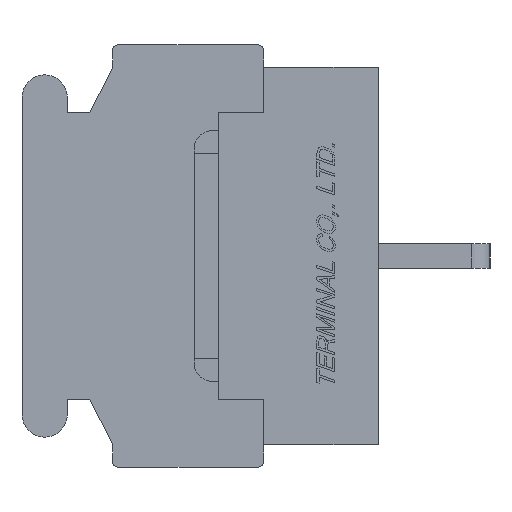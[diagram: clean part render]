
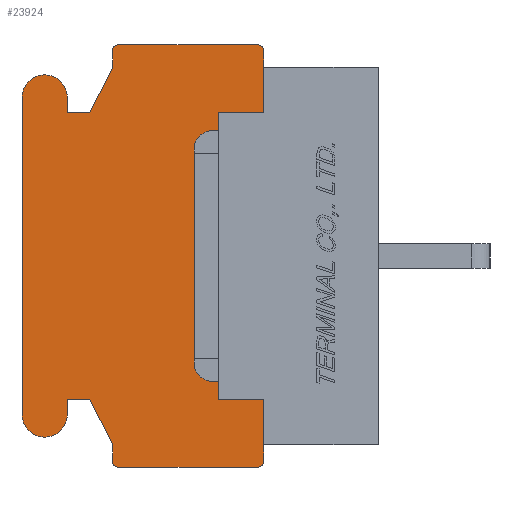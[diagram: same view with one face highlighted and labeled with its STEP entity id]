
A CAD part, left-side view. The second image highlights one B-rep face of the part: STEP entity #23924.
In plain terms, the highlighted planar face has unit normal (-1, 0, 0).
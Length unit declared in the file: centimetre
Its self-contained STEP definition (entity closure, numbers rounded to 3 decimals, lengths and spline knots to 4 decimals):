
#970=PLANE('',#38953);
#2183=VECTOR('',#25894,1.);
#2578=VECTOR('',#26422,1.);
#2581=VECTOR('',#26426,1.);
#2583=VECTOR('',#26429,1.);
#2584=VECTOR('',#26431,1.);
#2585=VECTOR('',#26433,1.);
#2586=VECTOR('',#26436,1.);
#2587=VECTOR('',#26439,1.);
#2588=VECTOR('',#26440,1.);
#2589=VECTOR('',#26441,1.);
#2590=VECTOR('',#26442,1.);
#2591=VECTOR('',#26445,1.);
#2592=VECTOR('',#26448,1.);
#2593=VECTOR('',#26449,1.);
#2594=VECTOR('',#26450,1.);
#2595=VECTOR('',#26451,1.);
#2596=VECTOR('',#26454,1.);
#2597=VECTOR('',#26457,1.);
#4827=LINE('',#32092,#2183);
#5222=LINE('',#33577,#2578);
#5225=LINE('',#33583,#2581);
#5227=LINE('',#33587,#2583);
#5228=LINE('',#33589,#2584);
#5229=LINE('',#33591,#2585);
#5230=LINE('',#33595,#2586);
#5231=LINE('',#33599,#2587);
#5232=LINE('',#33601,#2588);
#5233=LINE('',#33603,#2589);
#5234=LINE('',#33605,#2590);
#5235=LINE('',#33609,#2591);
#5236=LINE('',#33613,#2592);
#5237=LINE('',#33615,#2593);
#5238=LINE('',#33617,#2594);
#5239=LINE('',#33619,#2595);
#5240=LINE('',#33623,#2596);
#5241=LINE('',#33627,#2597);
#7410=VERTEX_POINT('',#32091);
#7411=VERTEX_POINT('',#32093);
#7745=VERTEX_POINT('',#33576);
#7746=VERTEX_POINT('',#33578);
#7747=VERTEX_POINT('',#33582);
#7748=VERTEX_POINT('',#33584);
#7749=VERTEX_POINT('',#33592);
#7750=VERTEX_POINT('',#33594);
#7751=VERTEX_POINT('',#33596);
#7752=VERTEX_POINT('',#33598);
#7753=VERTEX_POINT('',#33600);
#7754=VERTEX_POINT('',#33602);
#7755=VERTEX_POINT('',#33604);
#7756=VERTEX_POINT('',#33606);
#7757=VERTEX_POINT('',#33608);
#7758=VERTEX_POINT('',#33610);
#7759=VERTEX_POINT('',#33612);
#7760=VERTEX_POINT('',#33614);
#7761=VERTEX_POINT('',#33616);
#7762=VERTEX_POINT('',#33618);
#7763=VERTEX_POINT('',#33620);
#7764=VERTEX_POINT('',#33622);
#7765=VERTEX_POINT('',#33624);
#7766=VERTEX_POINT('',#33626);
#9313=CIRCLE('',#38954,0.02);
#9314=CIRCLE('',#38955,0.02);
#9315=CIRCLE('',#38956,0.075);
#9316=CIRCLE('',#38957,0.075);
#9317=CIRCLE('',#38958,0.02);
#9318=CIRCLE('',#38959,0.02);
#10528=EDGE_CURVE('',#7411,#7410,#4827,.T.);
#11029=EDGE_CURVE('',#7746,#7745,#5222,.T.);
#11032=EDGE_CURVE('',#7748,#7747,#5225,.T.);
#11034=EDGE_CURVE('',#7747,#7411,#5227,.T.);
#11035=EDGE_CURVE('',#7410,#7746,#5228,.T.);
#11036=EDGE_CURVE('',#7749,#7745,#5229,.T.);
#11037=EDGE_CURVE('',#7750,#7749,#9313,.T.);
#11038=EDGE_CURVE('',#7751,#7750,#5230,.T.);
#11039=EDGE_CURVE('',#7752,#7751,#9314,.T.);
#11040=EDGE_CURVE('',#7753,#7752,#5231,.T.);
#11041=EDGE_CURVE('',#7754,#7753,#5232,.T.);
#11042=EDGE_CURVE('',#7755,#7754,#5233,.T.);
#11043=EDGE_CURVE('',#7756,#7755,#5234,.T.);
#11044=EDGE_CURVE('',#7757,#7756,#9315,.T.);
#11045=EDGE_CURVE('',#7758,#7757,#5235,.T.);
#11046=EDGE_CURVE('',#7759,#7758,#9316,.T.);
#11047=EDGE_CURVE('',#7760,#7759,#5236,.T.);
#11048=EDGE_CURVE('',#7761,#7760,#5237,.T.);
#11049=EDGE_CURVE('',#7762,#7761,#5238,.T.);
#11050=EDGE_CURVE('',#7763,#7762,#5239,.T.);
#11051=EDGE_CURVE('',#7764,#7763,#9317,.T.);
#11052=EDGE_CURVE('',#7765,#7764,#5240,.T.);
#11053=EDGE_CURVE('',#7766,#7765,#9318,.T.);
#11054=EDGE_CURVE('',#7748,#7766,#5241,.T.);
#15909=ORIENTED_EDGE('',*,*,#11032,.T.);
#15910=ORIENTED_EDGE('',*,*,#11034,.T.);
#15911=ORIENTED_EDGE('',*,*,#10528,.T.);
#15912=ORIENTED_EDGE('',*,*,#11035,.T.);
#15913=ORIENTED_EDGE('',*,*,#11029,.T.);
#15914=ORIENTED_EDGE('',*,*,#11036,.F.);
#15915=ORIENTED_EDGE('',*,*,#11037,.F.);
#15916=ORIENTED_EDGE('',*,*,#11038,.F.);
#15917=ORIENTED_EDGE('',*,*,#11039,.F.);
#15918=ORIENTED_EDGE('',*,*,#11040,.F.);
#15919=ORIENTED_EDGE('',*,*,#11041,.F.);
#15920=ORIENTED_EDGE('',*,*,#11042,.F.);
#15921=ORIENTED_EDGE('',*,*,#11043,.F.);
#15922=ORIENTED_EDGE('',*,*,#11044,.F.);
#15923=ORIENTED_EDGE('',*,*,#11045,.F.);
#15924=ORIENTED_EDGE('',*,*,#11046,.F.);
#15925=ORIENTED_EDGE('',*,*,#11047,.F.);
#15926=ORIENTED_EDGE('',*,*,#11048,.F.);
#15927=ORIENTED_EDGE('',*,*,#11049,.F.);
#15928=ORIENTED_EDGE('',*,*,#11050,.F.);
#15929=ORIENTED_EDGE('',*,*,#11051,.F.);
#15930=ORIENTED_EDGE('',*,*,#11052,.F.);
#15931=ORIENTED_EDGE('',*,*,#11053,.F.);
#15932=ORIENTED_EDGE('',*,*,#11054,.F.);
#21076=EDGE_LOOP('',(#15909,#15910,#15911,#15912,#15913,#15914,#15915,#15916,
#15917,#15918,#15919,#15920,#15921,#15922,#15923,#15924,#15925,#15926,#15927,
#15928,#15929,#15930,#15931,#15932));
#22526=FACE_BOUND('',#21076,.T.);
#23924=ADVANCED_FACE('',(#22526),#970,.F.);
#25894=DIRECTION('',(0.,0.,1.));
#26422=DIRECTION('',(0.,0.,1.));
#26426=DIRECTION('',(0.,0.,1.));
#26429=DIRECTION('',(0.,1.,0.));
#26431=DIRECTION('',(0.,-1.,0.));
#26432=DIRECTION('',(1.,0.,0.));
#26433=DIRECTION('',(0.,0.,-1.));
#26434=DIRECTION('',(1.,0.,0.));
#26435=DIRECTION('',(0.,0.,-0.02));
#26436=DIRECTION('',(0.,-1.,0.));
#26437=DIRECTION('',(1.,0.,0.));
#26438=DIRECTION('',(0.,0.,-0.02));
#26439=DIRECTION('',(0.,0.,1.));
#26440=DIRECTION('',(0.,-0.447,0.894));
#26441=DIRECTION('',(0.,-1.,0.));
#26442=DIRECTION('',(0.,0.,-1.));
#26443=DIRECTION('',(1.,0.,0.));
#26444=DIRECTION('',(0.,0.,-0.075));
#26445=DIRECTION('',(0.,0.,1.));
#26446=DIRECTION('',(1.,0.,0.));
#26447=DIRECTION('',(0.,0.,-0.075));
#26448=DIRECTION('',(0.,0.,-1.));
#26449=DIRECTION('',(0.,1.,0.));
#26450=DIRECTION('',(0.,0.447,0.894));
#26451=DIRECTION('',(0.,0.,1.));
#26452=DIRECTION('',(1.,0.,0.));
#26453=DIRECTION('',(0.,0.,-0.02));
#26454=DIRECTION('',(0.,1.,0.));
#26455=DIRECTION('',(1.,0.,0.));
#26456=DIRECTION('',(0.,0.,-0.02));
#26457=DIRECTION('',(0.,0.,-1.));
#32091=CARTESIAN_POINT('',(-0.762,0.53,0.475));
#32092=CARTESIAN_POINT('',(-0.762,0.53,0.));
#32093=CARTESIAN_POINT('',(-0.762,0.53,-0.475));
#33576=CARTESIAN_POINT('',(-0.762,0.38,0.625));
#33577=CARTESIAN_POINT('',(-0.762,0.38,0.275));
#33578=CARTESIAN_POINT('',(-0.762,0.38,0.475));
#33582=CARTESIAN_POINT('',(-0.762,0.38,-0.475));
#33583=CARTESIAN_POINT('',(-0.762,0.38,-0.275));
#33584=CARTESIAN_POINT('',(-0.762,0.38,-0.625));
#33587=CARTESIAN_POINT('',(-0.762,0.5304,-0.475));
#33589=CARTESIAN_POINT('',(-0.762,0.5304,0.475));
#33590=CARTESIAN_POINT('',(-0.762,0.6059,0.));
#33591=CARTESIAN_POINT('',(-0.762,0.38,0.68));
#33592=CARTESIAN_POINT('',(-0.762,0.38,0.68));
#33593=CARTESIAN_POINT('',(-0.762,0.4,0.68));
#33594=CARTESIAN_POINT('',(-0.762,0.4,0.7));
#33595=CARTESIAN_POINT('',(-0.762,0.86,0.7));
#33596=CARTESIAN_POINT('',(-0.762,0.86,0.7));
#33597=CARTESIAN_POINT('',(-0.762,0.86,0.68));
#33598=CARTESIAN_POINT('',(-0.762,0.88,0.68));
#33599=CARTESIAN_POINT('',(-0.762,0.88,0.625));
#33600=CARTESIAN_POINT('',(-0.762,0.88,0.625));
#33601=CARTESIAN_POINT('',(-0.762,0.955,0.475));
#33602=CARTESIAN_POINT('',(-0.762,0.955,0.475));
#33603=CARTESIAN_POINT('',(-0.762,1.03,0.475));
#33604=CARTESIAN_POINT('',(-0.762,1.03,0.475));
#33605=CARTESIAN_POINT('',(-0.762,1.03,0.525));
#33606=CARTESIAN_POINT('',(-0.762,1.03,0.525));
#33607=CARTESIAN_POINT('',(-0.762,1.105,0.525));
#33608=CARTESIAN_POINT('',(-0.762,1.18,0.525));
#33609=CARTESIAN_POINT('',(-0.762,1.18,-0.525));
#33610=CARTESIAN_POINT('',(-0.762,1.18,-0.525));
#33611=CARTESIAN_POINT('',(-0.762,1.105,-0.525));
#33612=CARTESIAN_POINT('',(-0.762,1.03,-0.525));
#33613=CARTESIAN_POINT('',(-0.762,1.03,-0.475));
#33614=CARTESIAN_POINT('',(-0.762,1.03,-0.475));
#33615=CARTESIAN_POINT('',(-0.762,0.955,-0.475));
#33616=CARTESIAN_POINT('',(-0.762,0.955,-0.475));
#33617=CARTESIAN_POINT('',(-0.762,0.88,-0.625));
#33618=CARTESIAN_POINT('',(-0.762,0.88,-0.625));
#33619=CARTESIAN_POINT('',(-0.762,0.88,-0.68));
#33620=CARTESIAN_POINT('',(-0.762,0.88,-0.68));
#33621=CARTESIAN_POINT('',(-0.762,0.86,-0.68));
#33622=CARTESIAN_POINT('',(-0.762,0.86,-0.7));
#33623=CARTESIAN_POINT('',(-0.762,0.4,-0.7));
#33624=CARTESIAN_POINT('',(-0.762,0.4,-0.7));
#33625=CARTESIAN_POINT('',(-0.762,0.4,-0.68));
#33626=CARTESIAN_POINT('',(-0.762,0.38,-0.68));
#33627=CARTESIAN_POINT('',(-0.762,0.38,-0.625));
#38953=AXIS2_PLACEMENT_3D('',#33590,#26432,$);
#38954=AXIS2_PLACEMENT_3D('',#33593,#26434,#26435);
#38955=AXIS2_PLACEMENT_3D('',#33597,#26437,#26438);
#38956=AXIS2_PLACEMENT_3D('',#33607,#26443,#26444);
#38957=AXIS2_PLACEMENT_3D('',#33611,#26446,#26447);
#38958=AXIS2_PLACEMENT_3D('',#33621,#26452,#26453);
#38959=AXIS2_PLACEMENT_3D('',#33625,#26455,#26456);
